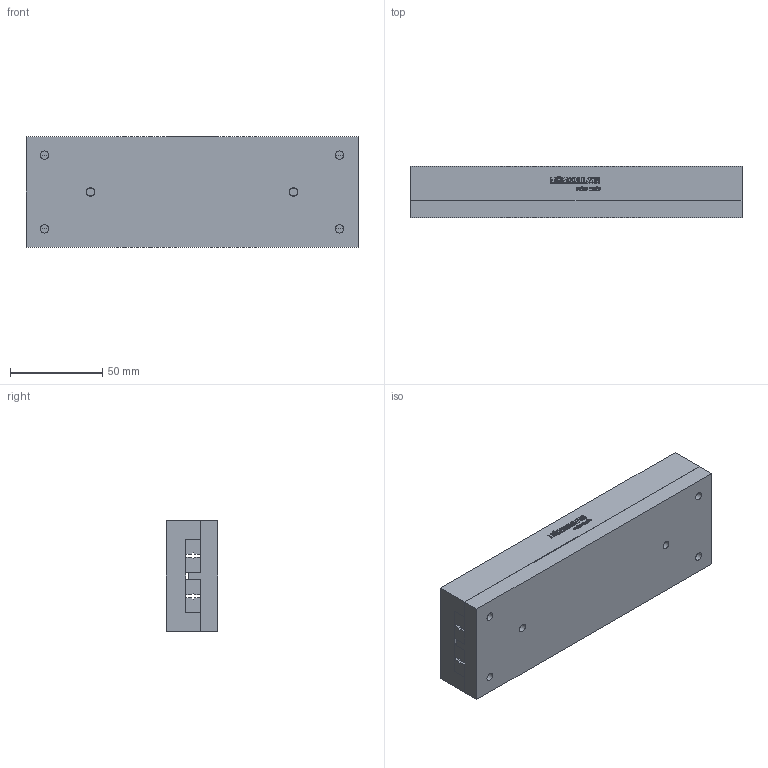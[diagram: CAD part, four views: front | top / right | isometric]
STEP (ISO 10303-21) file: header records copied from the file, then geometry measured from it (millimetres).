
FILE_DESCRIPTION(/* description */ ('STEP AP214'),/* implementation_level */ '2;1');
FILE_NAME(/* name */ 'NK 3-180-B(0)',/* time_stamp */ '2025-04-22T17:49:18+02:00',/* author */ ('License CC BY-ND 4.0'),/* organization */ ('CADENAS'),/* preprocessor_version */ 'ST-DEVELOPER v19.3',/* originating_system */ 'PARTsolutions',/* authorisation */ ' ');
FILE_SCHEMA (('AUTOMOTIVE_DESIGN {1 0 10303 214 3 1 1}'));
Length unit declared in the file: millimetre
Products named in the file (3): NK 3-180-B(0); NK 3-180-B_1; NK 3-180-B_2
Assembly tree (2 placements, depth 2):
  NK 3-180-B(0)
    NK 3-180-B_1
    NK 3-180-B_2
Bounding box: 180 x 28 x 60 mm (x, y, z)
Volume: 292528.5 mm3; surface area: 76271.7 mm2
Topology: 2 solids, 2 shells, 625 faces, 1774 edges, 1176 vertices
Faces by surface type: cylinder 316, plane 285, cone 24
Full cylindrical faces by diameter (mm): 3.242 x12, 4.5 x6, 7.5 x6
Entity records: 20395 total; most frequent: DIRECTION 3650, CARTESIAN_POINT 3590, ORIENTED_EDGE 3452, EDGE_CURVE 1726, AXIS2_PLACEMENT_3D 1320, VERTEX_POINT 1164, LINE 1010, VECTOR 1010
